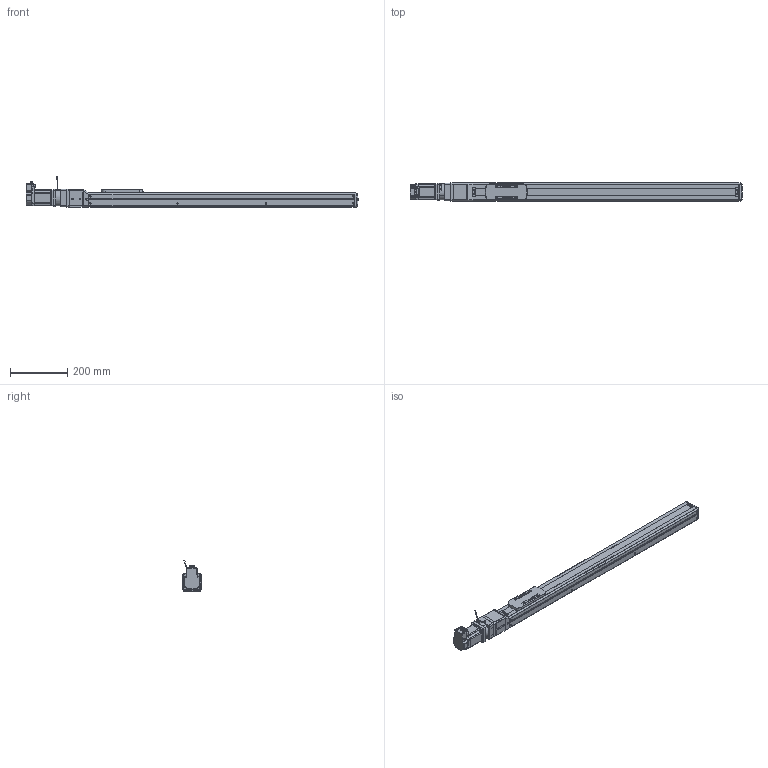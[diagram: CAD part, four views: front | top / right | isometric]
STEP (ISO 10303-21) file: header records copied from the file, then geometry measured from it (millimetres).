
FILE_DESCRIPTION(('FreeCAD Model'),'2;1');
FILE_NAME('Open CASCADE Shape Model','2023-08-03T14:33:18',('Author'),( ''),'Open CASCADE STEP processor 7.5','FreeCAD','Unknown');
FILE_SCHEMA(('AUTOMOTIVE_DESIGN { 1 0 10303 214 1 1 1 1 }'));
Length unit declared in the file: millimetre
Products named in the file (21): RMJ1211_BRK; Shapes; Shapes001; Shapes002; Shapes003; Shapes004; Shapes005; Shapes006; Shapes007; Shapes008; Shapes009; Shapes010; Shapes011; Shapes012; Body; BXW-03-10H-8_STEP; Body001; KSF6-20-0700-0-A0(0); KSF6---(Cover); KSF6-10-0700---(slider); KSF6-20-0700-A0 (0700A0No0)---(body)
Assembly tree (20 placements, depth 3):
  RMJ1211_BRK
    Shapes
    Shapes001
    Shapes002
    Shapes003
    Shapes004
    Shapes005
    Shapes006
    Shapes007
    Shapes008
    Shapes009
    Shapes010
    Shapes011
    Shapes012
    Body
    BXW-03-10H-8_STEP
    Body001
    KSF6-20-0700-0-A0(0)
      KSF6---(Cover)
      KSF6-10-0700---(slider)
      KSF6-20-0700-A0 (0700A0No0)---(body)
Bounding box: 1160.47 x 66.4 x 107.78 mm (x, y, z)
Volume: 3575970.8 mm3; surface area: 415994.8 mm2
Topology: 19 solids, 19 shells, 1898 faces, 5044 edges, 3307 vertices
Faces by surface type: plane 1255, cylinder 493, cone 91, bspline 28, torus 27, revolution 4
Full cylindrical faces by diameter (mm): 2.113 x8, 2.6 x4, 3 x5, 3.242 x5, 4.134 x4, 4.2 x7, 4.3 x1, 4.5 x2, 5 x1, 5.5 x16, 6.5 x4, 7.5 x4, 9 x1, 9.5 x10, 12 x1, 15.5 x1, 17 x1, 38.1 x1, 38.2 x1, 44 x1, 50 x2, 56.2 x1
Entity records: 135417 total; most frequent: CARTESIAN_POINT 31482, DIRECTION 19159, LINE 12438, VECTOR 12438, ORIENTED_EDGE 10040, PCURVE 10040, DEFINITIONAL_REPRESENTATION 10040, EDGE_CURVE 5020
